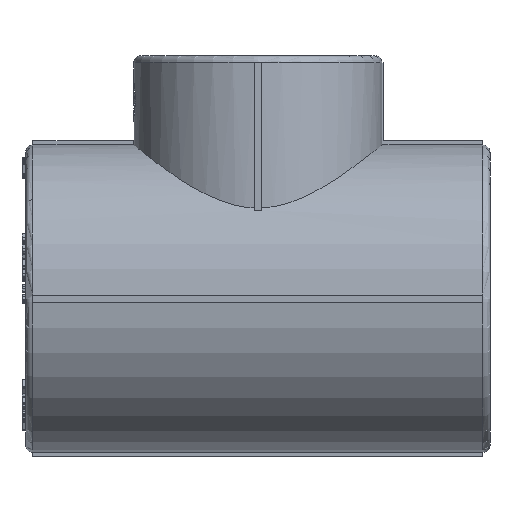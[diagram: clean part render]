
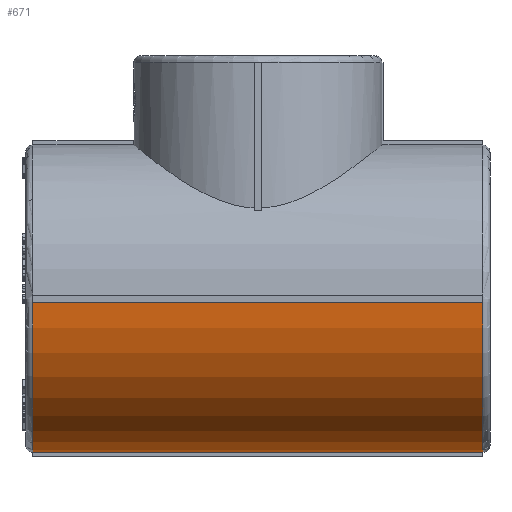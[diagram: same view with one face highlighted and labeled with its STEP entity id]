
A CAD part, left-side view. The second image highlights one B-rep face of the part: STEP entity #671.
In plain terms, the highlighted cylindrical face has radius 21.35 mm (diameter 42.7 mm), a partial arc.
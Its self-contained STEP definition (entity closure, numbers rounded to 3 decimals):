
#671=ADVANCED_FACE('',(#5199),#5201,.T.);
#5199=FACE_BOUND('',#5200,.T.);
#5200=EDGE_LOOP('',(#13211,#13212,#13213,#13214));
#5201=CYLINDRICAL_SURFACE('',#5202,21.35);
#5202=AXIS2_PLACEMENT_3D('',#5203,#5204,#5205);
#5203=CARTESIAN_POINT('',(0.,-32.25,0.));
#5204=DIRECTION('',(0.,1.,0.));
#5205=DIRECTION('',(-1.,0.,0.));
#13211=ORIENTED_EDGE('',*,*,#18679,.F.);
#13212=ORIENTED_EDGE('',*,*,#18680,.T.);
#13213=ORIENTED_EDGE('',*,*,#18681,.F.);
#13214=ORIENTED_EDGE('',*,*,#18638,.F.);
#18638=EDGE_CURVE('',#22956,#22958,#22959,.T.);
#18679=EDGE_CURVE('',#23031,#22956,#23032,.T.);
#18680=EDGE_CURVE('',#23031,#23033,#23034,.T.);
#18681=EDGE_CURVE('',#22958,#23033,#23035,.F.);
#22956=VERTEX_POINT('',#31691);
#22958=VERTEX_POINT('',#31696);
#22959=CIRCLE('',#31697,21.35);
#23031=VERTEX_POINT('',#32136);
#23032=LINE('',#32137,#32138);
#23033=VERTEX_POINT('',#32140);
#23034=CIRCLE('',#32141,21.35);
#23035=LINE('',#32145,#32146);
#31691=CARTESIAN_POINT('',(-0.5,31.25,-21.344));
#31696=CARTESIAN_POINT('',(-21.344,31.25,-0.5));
#31697=AXIS2_PLACEMENT_3D('',#31698,#31699,#31700);
#31698=CARTESIAN_POINT('',(0.,31.25,0.));
#31699=DIRECTION('',(0.,1.,0.));
#31700=DIRECTION('',(-0.023,0.,-1.));
#32136=CARTESIAN_POINT('',(-0.5,-31.25,-21.344));
#32137=CARTESIAN_POINT('',(-0.5,-31.25,-21.344));
#32138=VECTOR('',#32139,1.);
#32139=DIRECTION('',(0.,1.,0.));
#32140=CARTESIAN_POINT('',(-21.344,-31.25,-0.5));
#32141=AXIS2_PLACEMENT_3D('',#32142,#32143,#32144);
#32142=CARTESIAN_POINT('',(0.,-31.25,0.));
#32143=DIRECTION('',(0.,1.,0.));
#32144=DIRECTION('',(-0.023,0.,-1.));
#32145=CARTESIAN_POINT('',(-21.344,-31.25,-0.5));
#32146=VECTOR('',#32147,1.);
#32147=DIRECTION('',(0.,1.,0.));
